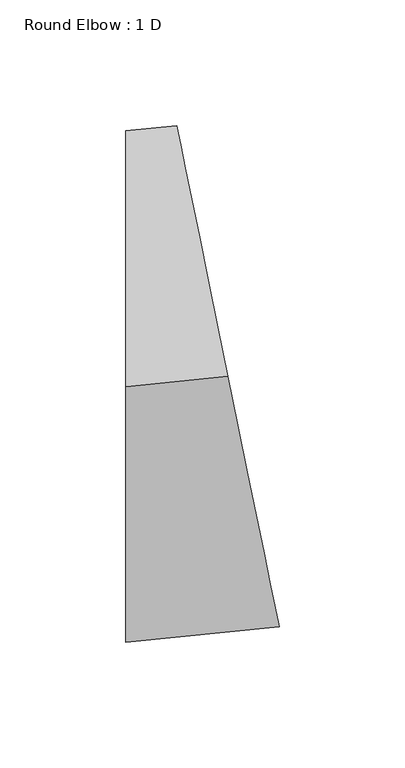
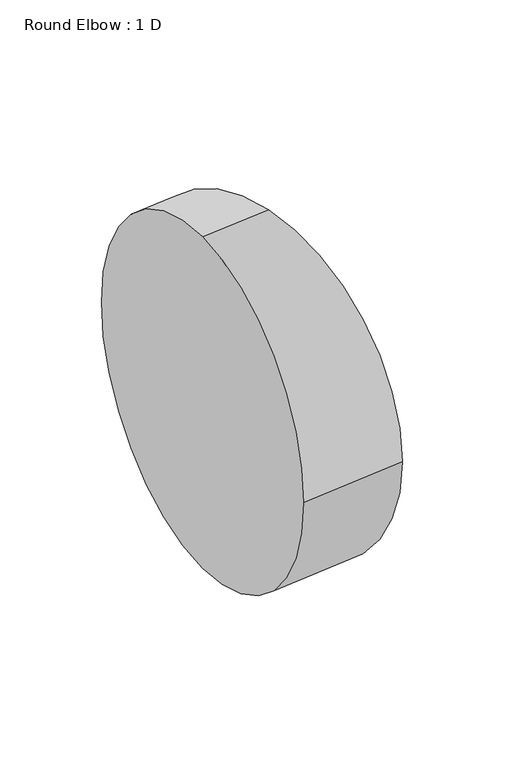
"""IFC4 building model written with IfcOpenShell, lengths in millimetres: duct fitting geometry, Round Elbow : 1 D."""

from ifc_helpers import new_model, si_unit, point, frame, origin, place, context, project, spatial, circle_curve, ellipse_curve, trimmed, source, transform, mapped, element, save
from ifc_brep_helpers import plane_surface, revolved_surface, advanced_brep


def round_elbow_1_d_b51427ba(model_context):
    return source(origin(), model_context, "Body", "AdvancedBrep", [
        advanced_brep(
        [(-20.50995, 0.0, 101.6), (-20.50995, 101.6, 0.0), (-20.50995, 0.0, -101.6), (-20.50995, -101.6, 0.0), (20.0962607, 4.0985795, 101.6), (40.3993661, -95.4521308, 0.0), (20.0962607, 4.0985795, -101.6), (-0.2068446, 103.6492897, 0.0)],
        [
            (0, 1, circle_curve(frame((-20.50995, 0.0, 0.0), z_axis=(-1.0, 0.0, 0.0), x_axis=(0.0, 1.0, 0.0)), 101.6)),
            (1, 2, circle_curve(frame((-20.50995, 0.0, 0.0), z_axis=(-1.0, 0.0, 0.0), x_axis=(0.0, 1.0, 0.0)), 101.6)),
            (2, 3, circle_curve(frame((-20.50995, 0.0, 0.0), z_axis=(-1.0, 0.0, 0.0), x_axis=(0.0, 1.0, 0.0)), 101.6)),
            (3, 0, circle_curve(frame((-20.50995, 0.0, 0.0), z_axis=(-1.0, 0.0, 0.0), x_axis=(0.0, 1.0, 0.0)), 101.6)),
            (4, 5, circle_curve(frame((20.0962607, 4.0985795, 0.0), z_axis=(0.9798298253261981, 0.1998337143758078, 0.0), x_axis=(-0.1998337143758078, 0.9798298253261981, 0.0)), 101.6)),
            (5, 6, circle_curve(frame((20.0962607, 4.0985795, 0.0), z_axis=(0.9798298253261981, 0.1998337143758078, 0.0), x_axis=(-0.1998337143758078, 0.9798298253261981, 0.0)), 101.6)),
            (6, 7, circle_curve(frame((20.0962607, 4.0985795, 0.0), z_axis=(0.9798298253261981, 0.1998337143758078, 0.0), x_axis=(-0.1998337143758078, 0.9798298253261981, 0.0)), 101.6)),
            (7, 4, circle_curve(frame((20.0962607, 4.0985795, 0.0), z_axis=(0.9798298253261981, 0.1998337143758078, 0.0), x_axis=(-0.1998337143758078, 0.9798298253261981, 0.0)), 101.6)),
            (7, 1, circle_curve(frame((-20.50995, 203.2, 0.0), z_axis=(0.0, 0.0, -1.0), x_axis=(0.0, -1.0, 0.0)), 101.6)),
            (0, 4, circle_curve(frame((-20.50995, 203.2, 101.6), z_axis=(0.0, 0.0, 1.0), x_axis=(0.0, -1.0, 0.0)), 203.2)),
            (6, 2, circle_curve(frame((-20.50995, 203.2, -101.6), z_axis=(0.0, 0.0, -1.0), x_axis=(0.0, -1.0, 0.0)), 203.2)),
            (5, 3, circle_curve(frame((-20.50995, 203.2, 0.0), z_axis=(0.0, 0.0, -1.0), x_axis=(0.0, -1.0, 0.0)), 304.8)),
        ],
        [
            plane_surface(frame((-20.50995, 0.0, 0.0), z_axis=(-1.0, 0.0, 0.0), x_axis=(0.0, 0.0, 1.0))),
            plane_surface(frame((20.0962607, 4.0985795, 0.0), z_axis=(0.9798298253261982, 0.1998337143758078, 0.0), x_axis=(0.0, 0.0, 1.0))),
            revolved_surface(trimmed(ellipse_curve(frame((-20.50995, 0.0, 0.0), z_axis=(-1.0, 0.0, 0.0), x_axis=(0.0, 1.0, 0.0)), 101.6, 101.6), [point((-20.50995, 0.0, 101.6))], [point((-20.50995, 101.6, 0.0))], True, "CARTESIAN"), (-20.50995, 203.2, 0.0), (0.0, 0.0, 1.0)),
            revolved_surface(trimmed(ellipse_curve(frame((-20.50995, 0.0, 0.0), z_axis=(-1.0, 0.0, 0.0), x_axis=(0.0, 1.0, 0.0)), 101.6, 101.6), [point((-20.50995, 101.6, 0.0))], [point((-20.50995, 0.0, -101.6))], True, "CARTESIAN"), (-20.50995, 203.2, 0.0), (0.0, 0.0, 1.0)),
            revolved_surface(trimmed(ellipse_curve(frame((-20.50995, 0.0, 0.0), z_axis=(-1.0, 0.0, 0.0), x_axis=(0.0, 1.0, 0.0)), 101.6, 101.6), [point((-20.50995, 0.0, -101.6))], [point((-20.50995, -101.6, 0.0))], True, "CARTESIAN"), (-20.50995, 203.2, 0.0), (0.0, 0.0, 1.0)),
            revolved_surface(trimmed(ellipse_curve(frame((-20.50995, 0.0, 0.0), z_axis=(-1.0, 0.0, 0.0), x_axis=(0.0, 1.0, 0.0)), 101.6, 101.6), [point((-20.50995, -101.6, 0.0))], [point((-20.50995, 0.0, 101.6))], True, "CARTESIAN"), (-20.50995, 203.2, 0.0), (0.0, 0.0, 1.0)),
        ],
        [
            (0, [[1, 2, 3, 4]]),
            (1, [[5, 6, 7, 8]]),
            (2, [[9, -1, 10, -8]]),
            (3, [[11, -2, -9, -7]]),
            (4, [[12, -3, -11, -6]]),
            (5, [[-10, -4, -12, -5]]),
        ],
    ),
    ])


if __name__ == "__main__":
    model = new_model("IFC4")
    model_context = context("Model", 3, world=origin())
    ifc_project = project(units=[si_unit("LENGTHUNIT", "METRE", prefix="MILLI")], contexts=[model_context])
    site = spatial("IfcSite", under=ifc_project)
    building = spatial("IfcBuilding", under=site)
    placement = place(None, origin())
    round_elbow_1_d_shape = round_elbow_1_d_b51427ba(model_context)
    element("IfcDuctFitting", 1, ObjectType="Round Elbow : 1 D", at=placement, inside=building, context=model_context, shape_type="MappedRepresentation", body=[
        mapped(round_elbow_1_d_shape, transform((0.0, 0.0, 0.0), x_axis=(1.0, 0.0, 0.0), y_axis=(0.0, 1.0, 0.0), z_axis=(0.0, 0.0, 1.0))),
    ])
    save(model, "model.ifc")
